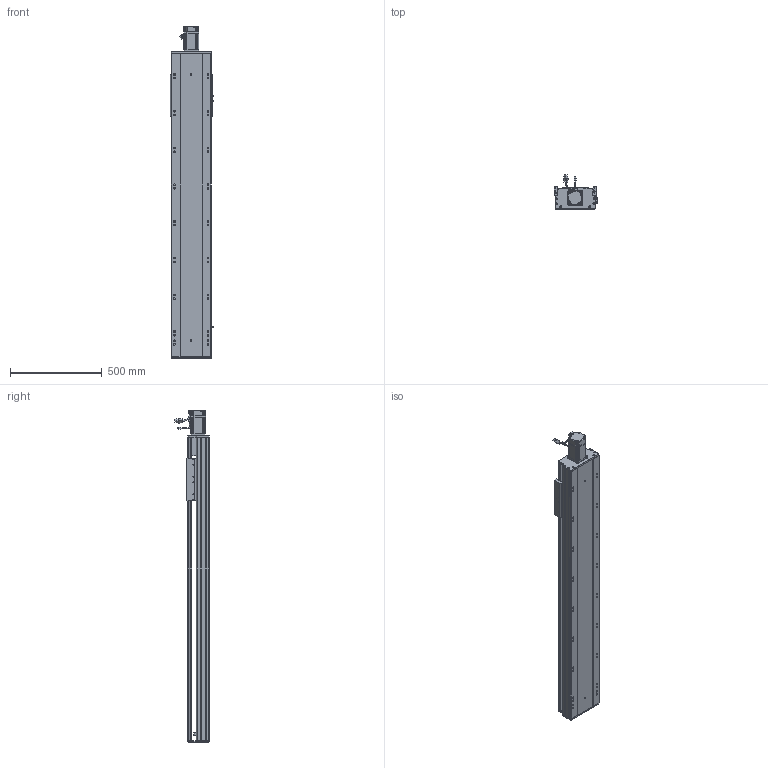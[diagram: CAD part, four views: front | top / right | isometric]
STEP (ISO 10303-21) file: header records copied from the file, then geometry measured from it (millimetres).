
FILE_DESCRIPTION (( 'STEP AP203' ), '1' );
FILE_NAME ('RY220-L2525-300-MK.SLDASM_1250.step', '2022-07-04T02:58:07', ( '' ), ( '' ), 'SwSTEP 2.0', 'SolidWorks 2016', '' );
FILE_SCHEMA (( 'CONFIG_CONTROL_DESIGN' ));
Length unit declared in the file: millimetre
Products named in the file (12): RY220-俋离672覜茼んえ; RY220菁釱MK-300_1250; RY220半封闭25-32螺母铝滑块; RY220-300-奻裔啣-MK_1250; 滅袉蝶18-12; 覜茼ん672; RY220-L2525-300-MK.SLDASM_1250; 滅袉蝶18-15; 怢湛750W_ECMA-CX0807ES; RY220电机支撑座FK20（PCD90M6）; RY220綴裔啣; RY220ヶ裔啣
Assembly tree (15 placements, depth 2):
  RY220-L2525-300-MK.SLDASM_1250
    RY220菁釱MK-300_1250
    RY220电机支撑座FK20（PCD90M6）
    怢湛750W_ECMA-CX0807ES
    滅袉蝶18-12  x2
    RY220ヶ裔啣
    RY220綴裔啣
    覜茼ん672  x3
    RY220半封闭25-32螺母铝滑块
    RY220-300-奻裔啣-MK_1250
    RY220-俋离672覜茼んえ
    滅袉蝶18-15  x2
Bounding box: 238.7 x 187.27 x 1808.3 mm (x, y, z)
Volume: 13986754.7 mm3; surface area: 3960235.9 mm2
Topology: 16 solids, 16 shells, 2274 faces, 6310 edges, 3976 vertices
Faces by surface type: cylinder 1040, plane 907, cone 265, bspline 36, sphere 16, torus 10
Entity records: 74946 total; most frequent: CARTESIAN_POINT 21309, ORIENTED_EDGE 11128, DIRECTION 10563, EDGE_CURVE 5564, AXIS2_PLACEMENT_3D 3735, VERTEX_POINT 3632, LINE 3093, VECTOR 3093
